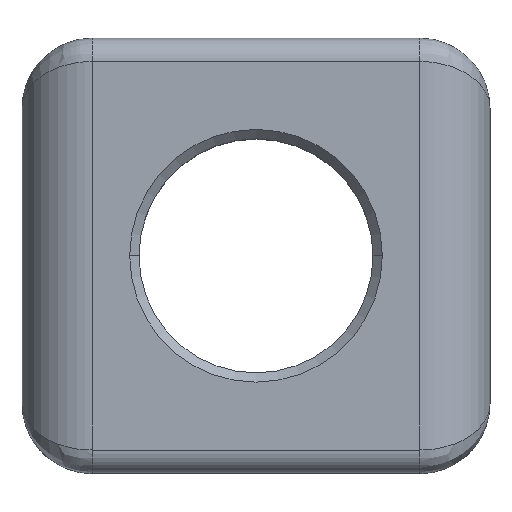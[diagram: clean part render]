
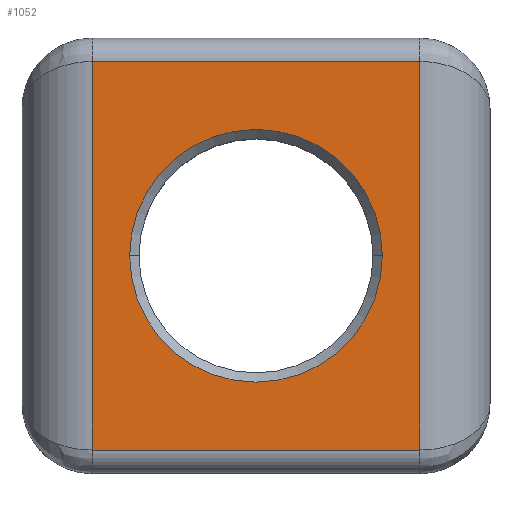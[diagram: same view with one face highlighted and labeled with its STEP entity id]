
A CAD part, top view. The second image highlights one B-rep face of the part: STEP entity #1052.
In plain terms, the highlighted planar face has unit normal (0, 0, 1).
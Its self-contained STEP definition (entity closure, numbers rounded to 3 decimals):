
#27 = DIRECTION ( 'NONE',  ( -1., 0., 0. ) ) ;
#60 = VECTOR ( 'NONE', #1225, 1000. ) ;
#62 = AXIS2_PLACEMENT_3D ( 'NONE', #412, #1175, #659 ) ;
#85 = VERTEX_POINT ( 'NONE', #1345 ) ;
#97 = ORIENTED_EDGE ( 'NONE', *, *, #1172, .T. ) ;
#133 = DIRECTION ( 'NONE',  ( 0., 1., 0. ) ) ;
#221 = VECTOR ( 'NONE', #239, 1000. ) ;
#239 = DIRECTION ( 'NONE',  ( -1., 0., 0. ) ) ;
#272 = CARTESIAN_POINT ( 'NONE',  ( 0., 4.15, 4.5 ) ) ;
#324 = DIRECTION ( 'NONE',  ( 0., 0., -1. ) ) ;
#356 = CIRCLE ( 'NONE', #1160, 2.7 ) ;
#412 = CARTESIAN_POINT ( 'NONE',  ( 0., 0., 4.5 ) ) ;
#447 = VERTEX_POINT ( 'NONE', #1520 ) ;
#452 = LINE ( 'NONE', #940, #1110 ) ;
#478 = EDGE_CURVE ( 'NONE', #85, #447, #356, .T. ) ;
#498 = LINE ( 'NONE', #272, #221 ) ;
#502 = VERTEX_POINT ( 'NONE', #751 ) ;
#519 = LINE ( 'NONE', #1616, #1180 ) ;
#579 = EDGE_LOOP ( 'NONE', ( #1578, #677, #633, #97 ) ) ;
#633 = ORIENTED_EDGE ( 'NONE', *, *, #1365, .T. ) ;
#638 = VERTEX_POINT ( 'NONE', #1555 ) ;
#640 = CARTESIAN_POINT ( 'NONE',  ( -3.5, -4.15, 4.5 ) ) ;
#653 = DIRECTION ( 'NONE',  ( 0., 0., -1. ) ) ;
#659 = DIRECTION ( 'NONE',  ( -1., 0., 0. ) ) ;
#677 = ORIENTED_EDGE ( 'NONE', *, *, #1343, .T. ) ;
#751 = CARTESIAN_POINT ( 'NONE',  ( -3.5, 4.15, 4.5 ) ) ;
#835 = DIRECTION ( 'NONE',  ( -1., 0., 0. ) ) ;
#847 = CARTESIAN_POINT ( 'NONE',  ( 0., 0., 4.5 ) ) ;
#876 = EDGE_LOOP ( 'NONE', ( #956, #976 ) ) ;
#940 = CARTESIAN_POINT ( 'NONE',  ( -3.5, 0., 4.5 ) ) ;
#951 = EDGE_CURVE ( 'NONE', #447, #85, #1211, .T. ) ;
#956 = ORIENTED_EDGE ( 'NONE', *, *, #951, .T. ) ;
#976 = ORIENTED_EDGE ( 'NONE', *, *, #478, .T. ) ;
#1020 = FACE_BOUND ( 'NONE', #876, .T. ) ;
#1028 = AXIS2_PLACEMENT_3D ( 'NONE', #847, #324, #835 ) ;
#1031 = FACE_OUTER_BOUND ( 'NONE', #579, .T. ) ;
#1052 = ADVANCED_FACE ( 'NONE', ( #1020, #1031 ), #1533, .F. ) ;
#1063 = CARTESIAN_POINT ( 'NONE',  ( 3.5, 4.15, 4.5 ) ) ;
#1099 = LINE ( 'NONE', #1254, #60 ) ;
#1110 = VECTOR ( 'NONE', #1575, 1000. ) ;
#1145 = CARTESIAN_POINT ( 'NONE',  ( 0., 0., 4.5 ) ) ;
#1160 = AXIS2_PLACEMENT_3D ( 'NONE', #1145, #653, #27 ) ;
#1172 = EDGE_CURVE ( 'NONE', #502, #1342, #452, .T. ) ;
#1175 = DIRECTION ( 'NONE',  ( 0., 0., -1. ) ) ;
#1180 = VECTOR ( 'NONE', #133, 1000. ) ;
#1211 = CIRCLE ( 'NONE', #62, 2.7 ) ;
#1225 = DIRECTION ( 'NONE',  ( 1., 0., 0. ) ) ;
#1254 = CARTESIAN_POINT ( 'NONE',  ( 0., -4.15, 4.5 ) ) ;
#1259 = EDGE_CURVE ( 'NONE', #1342, #638, #1099, .T. ) ;
#1342 = VERTEX_POINT ( 'NONE', #640 ) ;
#1343 = EDGE_CURVE ( 'NONE', #638, #1582, #519, .T. ) ;
#1345 = CARTESIAN_POINT ( 'NONE',  ( -2.7, 0., 4.5 ) ) ;
#1365 = EDGE_CURVE ( 'NONE', #1582, #502, #498, .T. ) ;
#1520 = CARTESIAN_POINT ( 'NONE',  ( 2.7, 0., 4.5 ) ) ;
#1533 = PLANE ( 'NONE',  #1028 ) ;
#1555 = CARTESIAN_POINT ( 'NONE',  ( 3.5, -4.15, 4.5 ) ) ;
#1575 = DIRECTION ( 'NONE',  ( 0., -1., 0. ) ) ;
#1578 = ORIENTED_EDGE ( 'NONE', *, *, #1259, .T. ) ;
#1582 = VERTEX_POINT ( 'NONE', #1063 ) ;
#1616 = CARTESIAN_POINT ( 'NONE',  ( 3.5, 0., 4.5 ) ) ;
